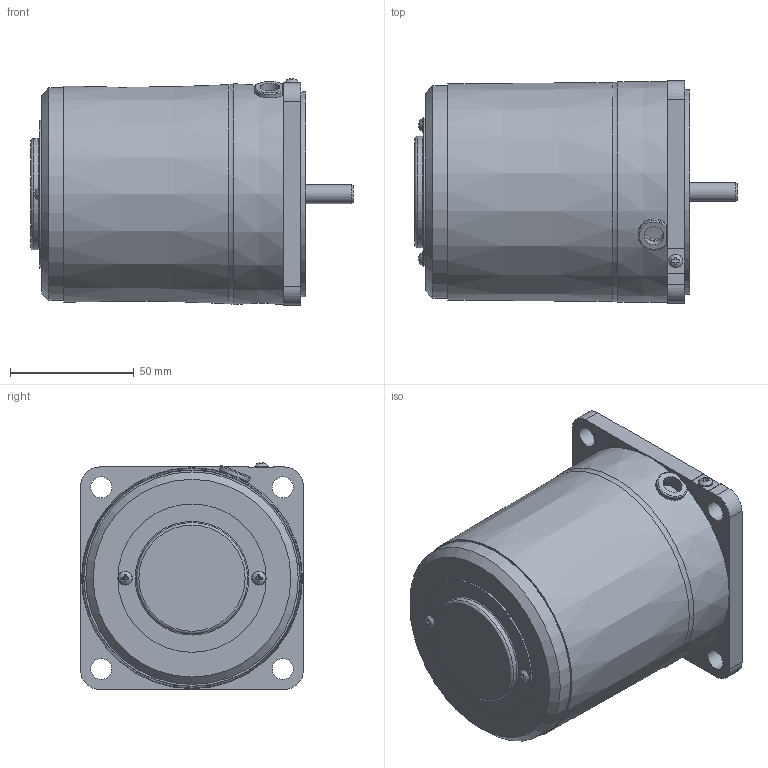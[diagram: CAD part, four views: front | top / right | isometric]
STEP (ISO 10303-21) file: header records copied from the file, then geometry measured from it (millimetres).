
FILE_DESCRIPTION(/* description */ (''),/* implementation_level */ '2;1');
FILE_NAME(/* name */ 'E:\도면작업\2016\0704) 미주향 SG 도면\3D MOTOR\SG6R\SG9R40G\SG9R40G_.stp',/* time_stamp */ '2016-12-12T16:33:40+09:00',/* author */ ('jy-jung'),/* organization */ (''),/* preprocessor_version */ 'ST-DEVELOPER v15.6',/* originating_system */ 'Autodesk Inventor 2015',/* authorisation */ '');
FILE_SCHEMA (('AUTOMOTIVE_DESIGN { 1 0 10303 214 3 1 1 }'));
Length unit declared in the file: millimetre
Products named in the file (1): 부품5
Bounding box: 130.4 x 90 x 91.76 mm (x, y, z)
Volume: 648992.2 mm3; surface area: 52934.8 mm2
Topology: 1 solids, 5 shells, 148 faces, 374 edges, 250 vertices
Faces by surface type: plane 95, cylinder 36, torus 10, cone 4, bspline 3
Full cylindrical faces by diameter (mm): 3 x2, 3.5 x2, 5.6 x3, 7.62 x1, 8 x1, 8.5 x4, 10 x1, 40 x1, 43 x1, 45 x1, 60 x1, 83 x1, 86 x1
Entity records: 4658 total; most frequent: CARTESIAN_POINT 1081, DIRECTION 676, ORIENTED_EDGE 660, EDGE_CURVE 330, AXIS2_PLACEMENT_3D 247, VERTEX_POINT 240, EDGE_LOOP 210, LINE 182
